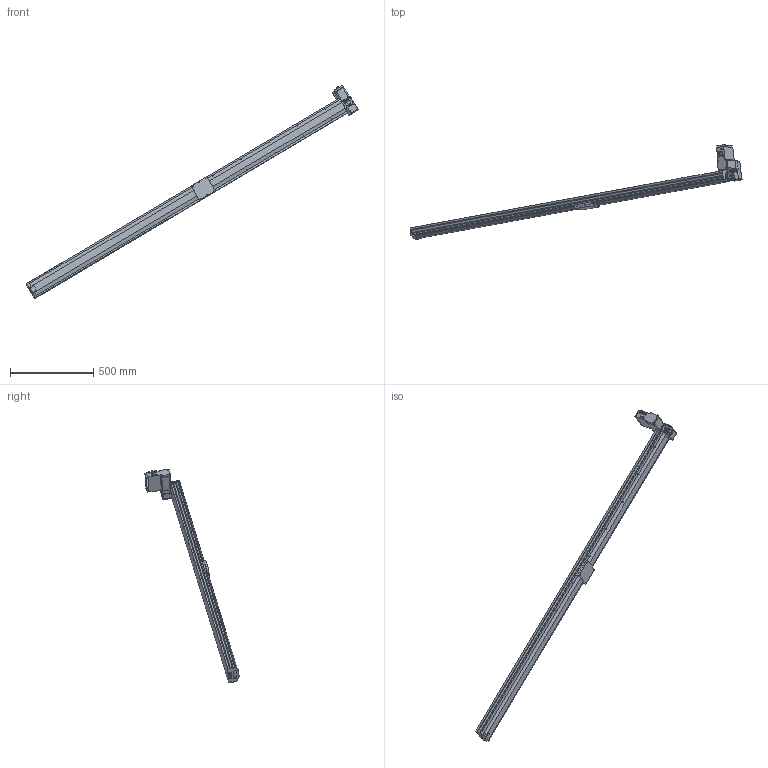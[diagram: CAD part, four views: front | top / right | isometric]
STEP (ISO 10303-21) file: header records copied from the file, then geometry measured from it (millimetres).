
FILE_DESCRIPTION (( 'STEP AP203' ), '1' );
FILE_NAME ('S10 CBH LU S2200.STEP', '2012-10-01T07:06:03', ( '' ), ( '' ), 'SwSTEP 2.0', 'SolidWorks 2010', '' );
FILE_SCHEMA (( 'CONFIG_CONTROL_DESIGN' ));
Length unit declared in the file: millimetre
Products named in the file (14): vis M5 L5_Default; cache t皻e axe_Default; vis M5 L12_Default; Cvis M5 L30_Default; S10 CBH LU S2200; plaque de bout s10_Default; cache t皻e_Default; Plaque racord_Default; renvoi LH_Default; Vis M5 L16-2_Default_1; embout; palette tbh; MOTEUR GMI 61 ; axe 2200
Assembly tree (24 placements, depth 2):
  S10 CBH LU S2200
    Cvis M5 L30_Default  x2
    vis M5 L5_Default  x4
    Vis M5 L16-2_Default_1  x4
    cache t皻e_Default  x2
    renvoi LH_Default
    vis M5 L12_Default  x4
    Plaque racord_Default
    embout
    MOTEUR GMI 61 
    axe 2200
    plaque de bout s10_Default
    palette tbh
    cache t皻e axe_Default
Bounding box: 1998.52 x 567.36 x 1283.94 mm (x, y, z)
Volume: 12566797.5 mm3; surface area: 1241452 mm2
Topology: 24 solids, 24 shells, 1099 faces, 2680 edges, 1662 vertices
Faces by surface type: plane 542, cylinder 408, cone 102, bspline 40, torus 7
Entity records: 27811 total; most frequent: CARTESIAN_POINT 5206, DIRECTION 4471, ORIENTED_EDGE 4176, EDGE_CURVE 2088, AXIS2_PLACEMENT_3D 1593, VERTEX_POINT 1350, VECTOR 1285, LINE 1285
